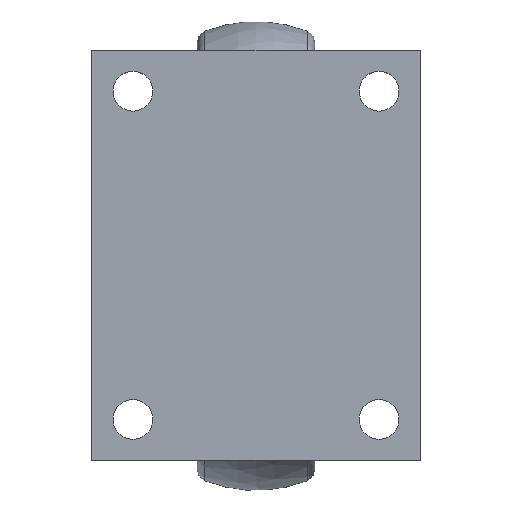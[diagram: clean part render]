
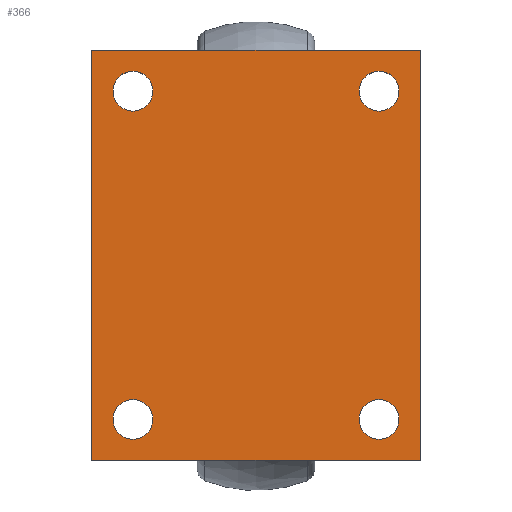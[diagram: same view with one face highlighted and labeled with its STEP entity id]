
A CAD part, top view. The second image highlights one B-rep face of the part: STEP entity #366.
In plain terms, the highlighted planar face has unit normal (0, 0, 1).
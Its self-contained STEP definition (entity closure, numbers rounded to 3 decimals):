
#96=CARTESIAN_POINT('',(52.5,70.,16.));
#97=DIRECTION('',(0.,0.,-1.));
#98=DIRECTION('',(1.,0.,0.));
#99=AXIS2_PLACEMENT_3D('',#96,#97,#98);
#101=CARTESIAN_POINT('',(52.5,70.,16.));
#102=DIRECTION('',(0.,0.,-1.));
#103=DIRECTION('',(-1.,0.,0.));
#104=AXIS2_PLACEMENT_3D('',#101,#102,#103);
#106=CARTESIAN_POINT('',(-52.5,70.,16.));
#107=DIRECTION('',(0.,0.,-1.));
#108=DIRECTION('',(1.,0.,0.));
#109=AXIS2_PLACEMENT_3D('',#106,#107,#108);
#111=CARTESIAN_POINT('',(-52.5,70.,16.));
#112=DIRECTION('',(0.,0.,-1.));
#113=DIRECTION('',(-1.,0.,0.));
#114=AXIS2_PLACEMENT_3D('',#111,#112,#113);
#116=CARTESIAN_POINT('',(-52.5,-70.,16.));
#117=DIRECTION('',(0.,0.,-1.));
#118=DIRECTION('',(1.,0.,0.));
#119=AXIS2_PLACEMENT_3D('',#116,#117,#118);
#121=CARTESIAN_POINT('',(-52.5,-70.,16.));
#122=DIRECTION('',(0.,0.,-1.));
#123=DIRECTION('',(-1.,0.,0.));
#124=AXIS2_PLACEMENT_3D('',#121,#122,#123);
#126=CARTESIAN_POINT('',(52.5,-70.,16.));
#127=DIRECTION('',(0.,0.,-1.));
#128=DIRECTION('',(1.,0.,0.));
#129=AXIS2_PLACEMENT_3D('',#126,#127,#128);
#131=CARTESIAN_POINT('',(52.5,-70.,16.));
#132=DIRECTION('',(0.,0.,-1.));
#133=DIRECTION('',(-1.,0.,0.));
#134=AXIS2_PLACEMENT_3D('',#131,#132,#133);
#136=DIRECTION('',(0.,-1.,0.));
#137=VECTOR('',#136,175.);
#138=CARTESIAN_POINT('',(-70.,87.5,16.));
#139=LINE('',#138,#137);
#140=DIRECTION('',(-1.,0.,0.));
#141=VECTOR('',#140,140.);
#142=CARTESIAN_POINT('',(70.,87.5,16.));
#143=LINE('',#142,#141);
#144=DIRECTION('',(0.,1.,0.));
#145=VECTOR('',#144,175.);
#146=CARTESIAN_POINT('',(70.,-87.5,16.));
#147=LINE('',#146,#145);
#148=DIRECTION('',(1.,0.,0.));
#149=VECTOR('',#148,140.);
#150=CARTESIAN_POINT('',(-70.,-87.5,16.));
#151=LINE('',#150,#149);
#216=CARTESIAN_POINT('',(61.,70.,16.));
#217=CARTESIAN_POINT('',(44.,70.,16.));
#218=VERTEX_POINT('',#216);
#219=VERTEX_POINT('',#217);
#220=CARTESIAN_POINT('',(-44.,70.,16.));
#221=CARTESIAN_POINT('',(-61.,70.,16.));
#222=VERTEX_POINT('',#220);
#223=VERTEX_POINT('',#221);
#224=CARTESIAN_POINT('',(-44.,-70.,16.));
#225=CARTESIAN_POINT('',(-61.,-70.,16.));
#226=VERTEX_POINT('',#224);
#227=VERTEX_POINT('',#225);
#228=CARTESIAN_POINT('',(61.,-70.,16.));
#229=CARTESIAN_POINT('',(44.,-70.,16.));
#230=VERTEX_POINT('',#228);
#231=VERTEX_POINT('',#229);
#232=CARTESIAN_POINT('',(-70.,87.5,16.));
#233=CARTESIAN_POINT('',(-70.,-87.5,16.));
#234=VERTEX_POINT('',#232);
#235=VERTEX_POINT('',#233);
#236=CARTESIAN_POINT('',(70.,-87.5,16.));
#237=VERTEX_POINT('',#236);
#238=CARTESIAN_POINT('',(70.,87.5,16.));
#239=VERTEX_POINT('',#238);
#329=CARTESIAN_POINT('',(0.,0.,16.));
#330=DIRECTION('',(0.,0.,1.));
#331=DIRECTION('',(1.,0.,0.));
#332=AXIS2_PLACEMENT_3D('',#329,#330,#331);
#333=PLANE('',#332);
#335=ORIENTED_EDGE('',*,*,#334,.F.);
#337=ORIENTED_EDGE('',*,*,#336,.F.);
#339=ORIENTED_EDGE('',*,*,#338,.F.);
#341=ORIENTED_EDGE('',*,*,#340,.F.);
#342=EDGE_LOOP('',(#335,#337,#339,#341));
#343=FACE_OUTER_BOUND('',#342,.F.);
#345=ORIENTED_EDGE('',*,*,#344,.F.);
#347=ORIENTED_EDGE('',*,*,#346,.F.);
#348=EDGE_LOOP('',(#345,#347));
#349=FACE_BOUND('',#348,.F.);
#351=ORIENTED_EDGE('',*,*,#350,.F.);
#353=ORIENTED_EDGE('',*,*,#352,.F.);
#354=EDGE_LOOP('',(#351,#353));
#355=FACE_BOUND('',#354,.F.);
#357=ORIENTED_EDGE('',*,*,#356,.F.);
#359=ORIENTED_EDGE('',*,*,#358,.F.);
#360=EDGE_LOOP('',(#357,#359));
#361=FACE_BOUND('',#360,.F.);
#362=ORIENTED_EDGE('',*,*,#295,.F.);
#363=ORIENTED_EDGE('',*,*,#316,.F.);
#364=EDGE_LOOP('',(#362,#363));
#365=FACE_BOUND('',#364,.F.);
#100=CIRCLE('',#99,8.5);
#105=CIRCLE('',#104,8.5);
#110=CIRCLE('',#109,8.5);
#115=CIRCLE('',#114,8.5);
#120=CIRCLE('',#119,8.5);
#125=CIRCLE('',#124,8.5);
#130=CIRCLE('',#129,8.5);
#135=CIRCLE('',#134,8.5);
#295=EDGE_CURVE('',#218,#219,#100,.T.);
#316=EDGE_CURVE('',#219,#218,#105,.T.);
#334=EDGE_CURVE('',#234,#235,#139,.T.);
#336=EDGE_CURVE('',#239,#234,#143,.T.);
#338=EDGE_CURVE('',#237,#239,#147,.T.);
#340=EDGE_CURVE('',#235,#237,#151,.T.);
#344=EDGE_CURVE('',#222,#223,#110,.T.);
#346=EDGE_CURVE('',#223,#222,#115,.T.);
#350=EDGE_CURVE('',#226,#227,#120,.T.);
#352=EDGE_CURVE('',#227,#226,#125,.T.);
#356=EDGE_CURVE('',#230,#231,#130,.T.);
#358=EDGE_CURVE('',#231,#230,#135,.T.);
#366=ADVANCED_FACE('',(#343,#349,#355,#361,#365),#333,.T.);
